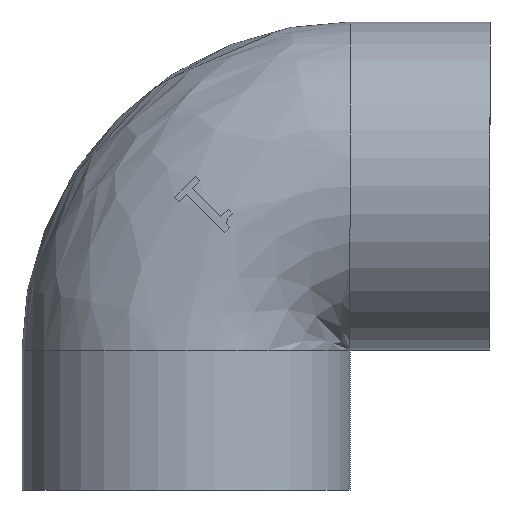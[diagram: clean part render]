
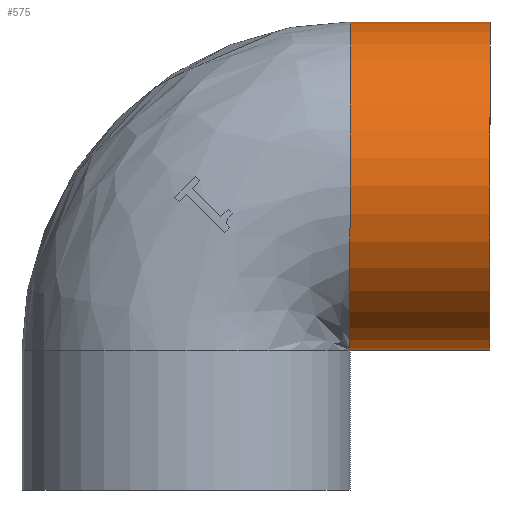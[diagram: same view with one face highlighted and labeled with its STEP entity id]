
A CAD part, front view. The second image highlights one B-rep face of the part: STEP entity #575.
In plain terms, the highlighted cylindrical face has radius 20.5 mm (diameter 41 mm), a full revolution.
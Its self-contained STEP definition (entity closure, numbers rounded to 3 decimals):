
#20=CYLINDRICAL_SURFACE('',#617,20.5);
#23=CIRCLE('',#601,20.5);
#30=CIRCLE('',#618,20.5);
#40=FACE_BOUND('',#190,.T.);
#148=FACE_OUTER_BOUND('',#189,.T.);
#189=EDGE_LOOP('',(#532));
#190=EDGE_LOOP('',(#533));
#291=VERTEX_POINT('',#1297);
#298=VERTEX_POINT('',#1365);
#365=EDGE_CURVE('',#291,#291,#23,.T.);
#378=EDGE_CURVE('',#298,#298,#30,.T.);
#532=ORIENTED_EDGE('',*,*,#378,.F.);
#533=ORIENTED_EDGE('',*,*,#365,.T.);
#575=ADVANCED_FACE('',(#148,#40),#20,.T.);
#601=AXIS2_PLACEMENT_3D('',#1299,#683,#684);
#617=AXIS2_PLACEMENT_3D('',#1364,#717,#718);
#618=AXIS2_PLACEMENT_3D('',#1366,#719,#720);
#683=DIRECTION('center_axis',(1.,0.,0.));
#684=DIRECTION('ref_axis',(0.,0.,1.));
#717=DIRECTION('center_axis',(1.,0.,0.));
#718=DIRECTION('ref_axis',(0.,0.,1.));
#719=DIRECTION('center_axis',(1.,0.,0.));
#720=DIRECTION('ref_axis',(0.,0.,1.));
#1297=CARTESIAN_POINT('',(20.5,0.,17.5));
#1299=CARTESIAN_POINT('Origin',(20.5,0.,38.));
#1364=CARTESIAN_POINT('Origin',(20.5,0.,38.));
#1365=CARTESIAN_POINT('',(38.,0.,17.5));
#1366=CARTESIAN_POINT('Origin',(38.,0.,38.));
